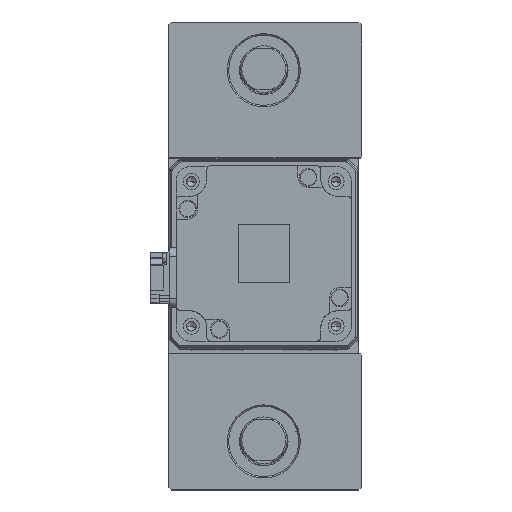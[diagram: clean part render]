
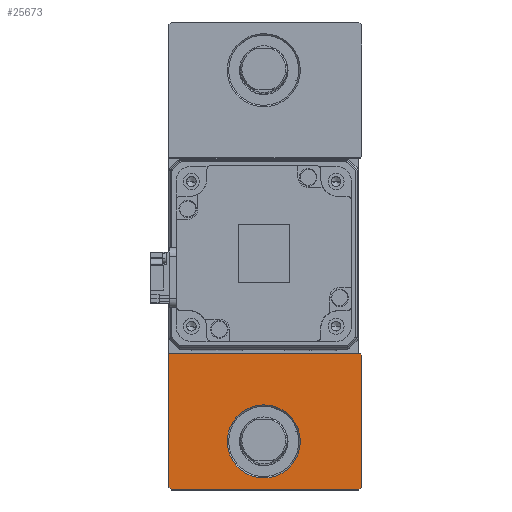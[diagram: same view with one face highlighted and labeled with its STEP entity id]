
A CAD part, top view. The second image highlights one B-rep face of the part: STEP entity #25673.
In plain terms, the highlighted planar face has unit normal (0, 0, 1).
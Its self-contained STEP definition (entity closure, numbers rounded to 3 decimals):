
#565 = DIRECTION ( 'NONE',  ( 0., -1., 0. ) ) ;
#601 = AXIS2_PLACEMENT_3D ( 'NONE', #23459, #5831, #26455 ) ;
#679 = VERTEX_POINT ( 'NONE', #11240 ) ;
#784 = DIRECTION ( 'NONE',  ( 0., 0., 1. ) ) ;
#883 = CARTESIAN_POINT ( 'NONE',  ( 32.5, -80., 25. ) ) ;
#1112 = CIRCLE ( 'NONE', #601, 12.5 ) ;
#1253 = CARTESIAN_POINT ( 'NONE',  ( 0., -63.5, 25. ) ) ;
#1407 = PLANE ( 'NONE',  #17387 ) ;
#1413 = CARTESIAN_POINT ( 'NONE',  ( -32.5, -80., 25. ) ) ;
#1945 = VERTEX_POINT ( 'NONE', #883 ) ;
#3543 = CARTESIAN_POINT ( 'NONE',  ( 33.5, -34., 25. ) ) ;
#4004 = EDGE_CURVE ( 'NONE', #32818, #26839, #1112, .T. ) ;
#4189 = DIRECTION ( 'NONE',  ( 1., 0., 0. ) ) ;
#4304 = VECTOR ( 'NONE', #28321, 1000. ) ;
#4322 = VERTEX_POINT ( 'NONE', #17939 ) ;
#4888 = EDGE_CURVE ( 'NONE', #4322, #20909, #30525, .T. ) ;
#5476 = VECTOR ( 'NONE', #22155, 1000. ) ;
#5831 = DIRECTION ( 'NONE',  ( 0., 0., -1. ) ) ;
#6553 = DIRECTION ( 'NONE',  ( 0., 1., 0. ) ) ;
#7017 = CARTESIAN_POINT ( 'NONE',  ( -32.5, -33.5, 25. ) ) ;
#7112 = ORIENTED_EDGE ( 'NONE', *, *, #20651, .T. ) ;
#7983 = CARTESIAN_POINT ( 'NONE',  ( -31.5, -80., 25. ) ) ;
#8230 = DIRECTION ( 'NONE',  ( 0.707, 0.707, 0. ) ) ;
#9346 = VECTOR ( 'NONE', #565, 1000. ) ;
#9403 = VERTEX_POINT ( 'NONE', #24525 ) ;
#9975 = DIRECTION ( 'NONE',  ( -1., 0., 0. ) ) ;
#10315 = CARTESIAN_POINT ( 'NONE',  ( -12.5, -63.5, 25. ) ) ;
#11240 = CARTESIAN_POINT ( 'NONE',  ( 33., -33.5, 25. ) ) ;
#11279 = VERTEX_POINT ( 'NONE', #16234 ) ;
#11432 = VECTOR ( 'NONE', #8230, 1000. ) ;
#12778 = FACE_BOUND ( 'NONE', #30561, .T. ) ;
#12946 = DIRECTION ( 'NONE',  ( -0.707, 0.707, 0. ) ) ;
#13330 = LINE ( 'NONE', #1413, #5476 ) ;
#13698 = FACE_OUTER_BOUND ( 'NONE', #26944, .T. ) ;
#14889 = VERTEX_POINT ( 'NONE', #7983 ) ;
#15771 = VECTOR ( 'NONE', #6553, 1000. ) ;
#15901 = CARTESIAN_POINT ( 'NONE',  ( -0.25, -0.25, 25. ) ) ;
#16234 = CARTESIAN_POINT ( 'NONE',  ( -32.5, -79., 25. ) ) ;
#16666 = ORIENTED_EDGE ( 'NONE', *, *, #37996, .T. ) ;
#17387 = AXIS2_PLACEMENT_3D ( 'NONE', #18400, #784, #21360 ) ;
#17459 = EDGE_CURVE ( 'NONE', #20909, #679, #24122, .T. ) ;
#17939 = CARTESIAN_POINT ( 'NONE',  ( 33.5, -79., 25. ) ) ;
#18400 = CARTESIAN_POINT ( 'NONE',  ( 0., 0., 25. ) ) ;
#18937 = LINE ( 'NONE', #7017, #25864 ) ;
#19053 = LINE ( 'NONE', #37132, #4304 ) ;
#20024 = ORIENTED_EDGE ( 'NONE', *, *, #4888, .T. ) ;
#20651 = EDGE_CURVE ( 'NONE', #1945, #4322, #34028, .T. ) ;
#20909 = VERTEX_POINT ( 'NONE', #3543 ) ;
#21077 = ORIENTED_EDGE ( 'NONE', *, *, #23872, .T. ) ;
#21360 = DIRECTION ( 'NONE',  ( 1., 0., 0. ) ) ;
#21496 = ORIENTED_EDGE ( 'NONE', *, *, #33494, .T. ) ;
#21844 = DIRECTION ( 'NONE',  ( 0., 0., -1. ) ) ;
#22155 = DIRECTION ( 'NONE',  ( 1., 0., 0. ) ) ;
#22179 = CARTESIAN_POINT ( 'NONE',  ( 12.5, -63.5, 25. ) ) ;
#23459 = CARTESIAN_POINT ( 'NONE',  ( 0., -63.5, 25. ) ) ;
#23872 = EDGE_CURVE ( 'NONE', #14889, #1945, #13330, .T. ) ;
#24122 = LINE ( 'NONE', #15901, #31047 ) ;
#24223 = ORIENTED_EDGE ( 'NONE', *, *, #4004, .T. ) ;
#24525 = CARTESIAN_POINT ( 'NONE',  ( -32.5, -33.5, 25. ) ) ;
#24809 = ORIENTED_EDGE ( 'NONE', *, *, #29075, .T. ) ;
#25673 = ADVANCED_FACE ( 'NONE', ( #12778, #13698 ), #1407, .T. ) ;
#25860 = CIRCLE ( 'NONE', #36788, 12.5 ) ;
#25864 = VECTOR ( 'NONE', #9975, 1000. ) ;
#25888 = CARTESIAN_POINT ( 'NONE',  ( 56.25, -56.25, 25. ) ) ;
#26455 = DIRECTION ( 'NONE',  ( 1., 0., 0. ) ) ;
#26839 = VERTEX_POINT ( 'NONE', #10315 ) ;
#26944 = EDGE_LOOP ( 'NONE', ( #21077, #7112, #20024, #31036, #16666, #33906, #21496 ) ) ;
#28321 = DIRECTION ( 'NONE',  ( 0.707, -0.707, 0. ) ) ;
#29075 = EDGE_CURVE ( 'NONE', #26839, #32818, #25860, .T. ) ;
#30525 = LINE ( 'NONE', #35970, #15771 ) ;
#30561 = EDGE_LOOP ( 'NONE', ( #24223, #24809 ) ) ;
#31036 = ORIENTED_EDGE ( 'NONE', *, *, #17459, .T. ) ;
#31047 = VECTOR ( 'NONE', #12946, 1000. ) ;
#32818 = VERTEX_POINT ( 'NONE', #22179 ) ;
#32890 = LINE ( 'NONE', #35894, #9346 ) ;
#33494 = EDGE_CURVE ( 'NONE', #11279, #14889, #19053, .T. ) ;
#33906 = ORIENTED_EDGE ( 'NONE', *, *, #36745, .T. ) ;
#34028 = LINE ( 'NONE', #25888, #11432 ) ;
#35894 = CARTESIAN_POINT ( 'NONE',  ( -32.5, -33.5, 25. ) ) ;
#35970 = CARTESIAN_POINT ( 'NONE',  ( 33.5, -33.5, 25. ) ) ;
#36745 = EDGE_CURVE ( 'NONE', #9403, #11279, #32890, .T. ) ;
#36788 = AXIS2_PLACEMENT_3D ( 'NONE', #1253, #21844, #4189 ) ;
#37132 = CARTESIAN_POINT ( 'NONE',  ( -55.75, -55.75, 25. ) ) ;
#37996 = EDGE_CURVE ( 'NONE', #679, #9403, #18937, .T. ) ;
